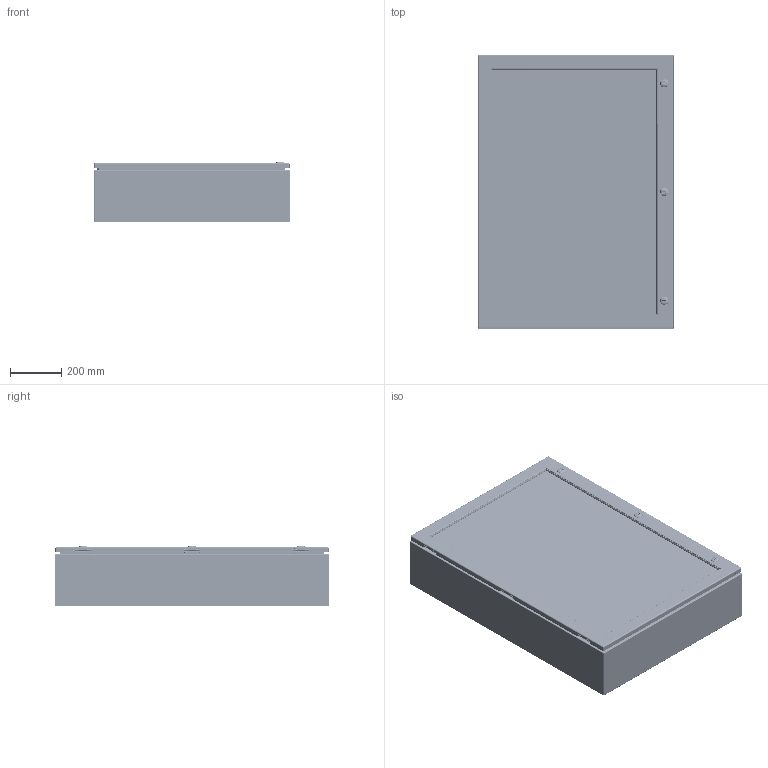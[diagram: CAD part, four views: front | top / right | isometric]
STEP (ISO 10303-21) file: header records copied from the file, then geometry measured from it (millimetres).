
FILE_DESCRIPTION(/* description */ ('5412ESW 42" x 30" x 8" Assembly'),/* implementation_level */ '2;1');
FILE_NAME(/* name */ 'C:\Vault_Workspace\Inventor_Dwg\BoxCad\Result\5412ESW423008\e-mail\3D\5412ESW423008.stp',/* time_stamp */ '2021-09-30T16:01:42-04:00',/* author */ ('BoxCad'),/* organization */ (''),/* preprocessor_version */ 'ST-DEVELOPER v18.1',/* originating_system */ 'Autodesk Inventor 2020',/* authorisation */ '');
FILE_SCHEMA (('AUTOMOTIVE_DESIGN { 1 0 10303 214 3 1 1 }'));
Products named in the file (68): 5412ESW423008; 5412ESW423008B; 5412ESW423008B-P; STK-Q-16005; STUD_M6 x 16mm; STK-S-00100; STK-Q-07610; 881SP4230G; 881SP4230G-P; STK-Q-07310; 5412ESW423008C; 5412ESW423008C-P; 5412ESW423008G; STK-K-09800; STK-K-09800-2; STK-K-09800-3; STK-Q-33014; STK-Q-90398; STK-Q-40095; STK-Q-63410; 5412ESW423008LX; 5412ESW423008LXG; 5412ESW423008_STK_G_02705; STK-Q-16052; 5412ESW423008_STK-A-60703; STK-Q-60703-2; STK-Q-60703-1; STK-Q-60703-3; STK-Q-60703-4; STK-Q-60702-A; STK-Q-60703-B; STK-Q-60703-C; STK-Q-60701; STK-Q-60701_1; STK-Q-60701_2; STK-Q-60701_3; STK-Q-60701_4; STK-Q-60701_5; STK-Q-60701_6; STK-Q-60701_7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
Assembly tree (182 placements, depth 5):
  5412ESW423008
    5412ESW423008B
      5412ESW423008B-P
      STK-Q-16005  x6
      STK-P-02400S
      STUD_M6 x 16mm
      STK-S-00100
    STK-Q-07610  x6
    881SP4230G
      881SP4230G-P
    STK-Q-07310  x6
    5412ESW423008C
      5412ESW423008C-P
      5412ESW423008G
      STK-K-09800
        STK-Q-33014
        STK-Q-90398
        STK-Q-40095  x2
        STK-Q-63410  x2
      STK-K-09800-2
        STK-Q-33014
        STK-Q-90398
        STK-Q-40095  x2
        STK-Q-63410  x2
      STK-K-09800-3
        STK-Q-33014
        STK-Q-90398
        STK-Q-40095  x2
        STK-Q-63410  x2
      5412ESW423008LX
      5412ESW423008LXG
      5412ESW423008_STK_G_02705
      STK-Q-16052  x18
      5412ESW423008_STK-A-60703
        STK-Q-60703-2
          STK-Q-60702-A
          STK-Q-60703-B
          STK-Q-60703-C
        STK-Q-60703-1
          STK-Q-60702-A
          STK-Q-60703-B
          STK-Q-60703-C
        STK-Q-60703-3
          STK-Q-60702-A
          STK-Q-60703-B
          STK-Q-60703-C
        STK-Q-60703-4
          STK-Q-60702-A
          STK-Q-60703-B
          STK-Q-60703-C
      STK-Q-60701
        STK-Q-60701-A
        STK-Q-60701-B
        STK-Q-60701-C
      STK-Q-60701_1
        STK-Q-60701-A
        STK-Q-60701-B
        STK-Q-60701-C
      STK-Q-60701_2
        STK-Q-60701-A
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Bounding box: 762.45 x 1066.8 x 235.97 mm (x, y, z)
Volume: 10411955 mm3; surface area: 7425261.2 mm2
Topology: 147 solids, 147 shells, 29651 faces, 80479 edges, 51706 vertices
Faces by surface type: bspline 10738, plane 9946, cylinder 7093, torus 999, sphere 490, cone 385
Full cylindrical faces by diameter (mm): 0 x1, 0.75 x25, 0.762 x26, 1 x12, 1.1 x12, 3.2 x6, 4.4 x8, 4.5 x18, 4.521 x12, 4.75 x3, 4.85 x24, 4.95 x6, 5 x18, 5.1 x108, 5.156 x2, 5.6 x3, 5.9 x43, 6.65 x6, 6.85 x24, 6.894 x8, 7 x36, 7.3 x3, 7.366 x22, 7.9 x6, 8 x42, 8.382 x3, 9 x18, 9.5 x18, 9.6 x3, 9.906 x4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
Entity records: 205144 total; most frequent: CARTESIAN_POINT 81501, ORIENTED_EDGE 27986, DIRECTION 20722, EDGE_CURVE 13993, VERTEX_POINT 8896, AXIS2_PLACEMENT_3D 7175, LINE 6372, VECTOR 6372
